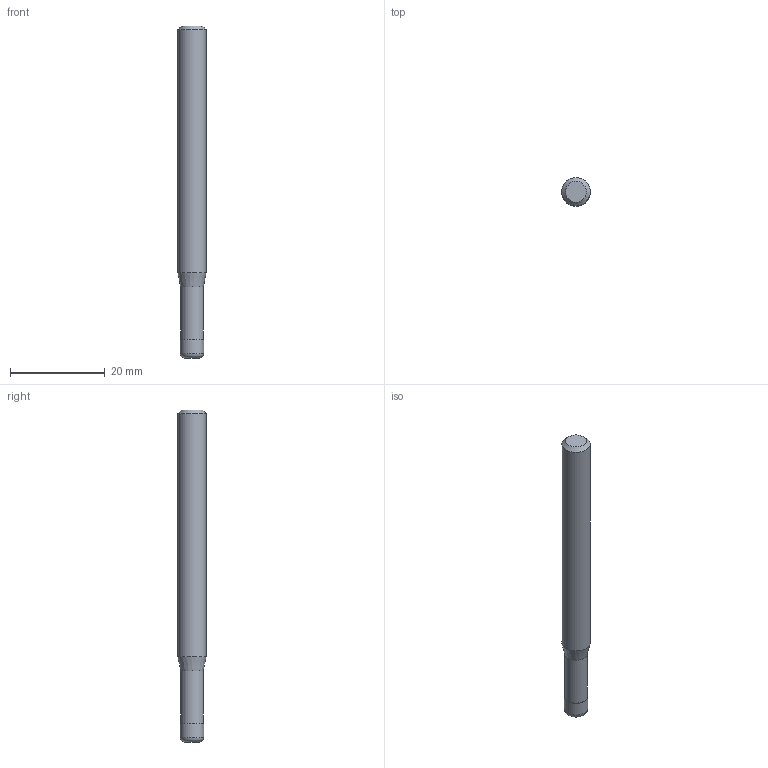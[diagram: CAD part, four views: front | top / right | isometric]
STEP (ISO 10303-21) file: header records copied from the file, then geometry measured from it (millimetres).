
FILE_DESCRIPTION((''),'2;1');
FILE_NAME('C:\Users\nsx150\AppData\Local\Temp\Mastercam 2021\3SYKECWX22\TEMP.step','2021-04-22T09:52:14',(''),(''),'STEP Write','Mastercam 2021 ... CNC Software, Inc.','');
FILE_SCHEMA(('AUTOMOTIVE_DESIGN'));
Length unit declared in the file: millimetre
Products named in the file (1): None
Bounding box: 6 x 6 x 70 mm (x, y, z)
Volume: 1803.9 mm3; surface area: 1327.5 mm2
Topology: 2 solids, 2 shells, 10 faces, 14 edges, 8 vertices
Faces by surface type: plane 4, cylinder 3, cone 2, torus 1
Full cylindrical faces by diameter (mm): 4.75 x1, 5 x1, 6 x1
Entity records: 232 total; most frequent: DIRECTION 40, CARTESIAN_POINT 28, AXIS2_PLACEMENT_3D 20, ORIENTED_EDGE 16, EDGE_LOOP 16, STYLED_ITEM 13, ADVANCED_FACE 10, FACE_BOUND 10
